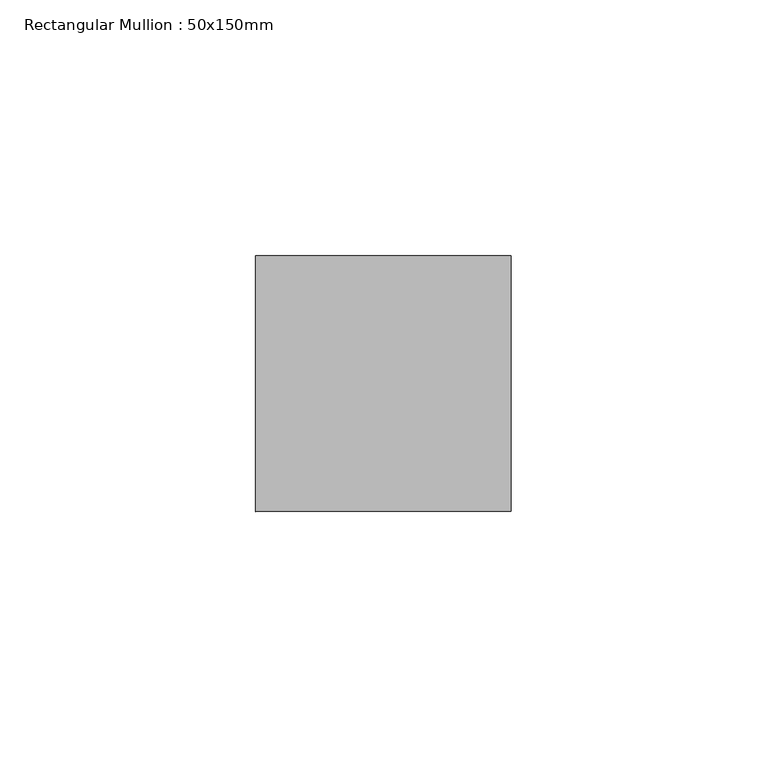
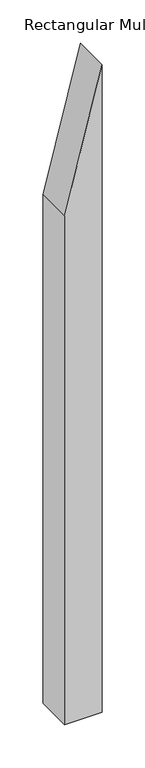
"""IFC4 building model written with IfcOpenShell, lengths in millimetres: member geometry, Rectangular Mullion : 50x150mm."""

from ifc_helpers import new_model, si_unit, frame, origin, place, context, project, spatial, polyline, outline, extrude, source, transform, mapped, element, save


def rectangular_mullion_50x150mm_2d824108(model_context):
    return source(origin(), model_context, "Body", "SweptSolid", [
        extrude(outline(polyline([(0.0, 0.0), (-196.9738057, -50.0), (-915.8287558, -50.0), (-915.8287558, 0.0), (0.0, 0.0)])), frame((0.0, -25.0, 0.0), z_axis=(0.0, 1.0, 0.0), x_axis=(0.0, 0.0, 1.0)), (0.0, 0.0, 1.0), 50.0),
    ])


if __name__ == "__main__":
    model = new_model("IFC4")
    model_context = context("Model", 3, world=origin())
    ifc_project = project(units=[si_unit("LENGTHUNIT", "METRE", prefix="MILLI")], contexts=[model_context])
    site = spatial("IfcSite", under=ifc_project)
    building = spatial("IfcBuilding", under=site)
    placement = place(None, origin())
    rectangular_mullion_50x150mm_shape = rectangular_mullion_50x150mm_2d824108(model_context)
    element("IfcMember", 1, ObjectType="Rectangular Mullion : 50x150mm", at=placement, inside=building, context=model_context, shape_type="MappedRepresentation", body=[
        mapped(rectangular_mullion_50x150mm_shape, transform((0.0, 0.0, 0.0), x_axis=(1.0, 0.0, 0.0), y_axis=(0.0, 1.0, 0.0), z_axis=(0.0, 0.0, 1.0))),
    ])
    save(model, "model.ifc")
